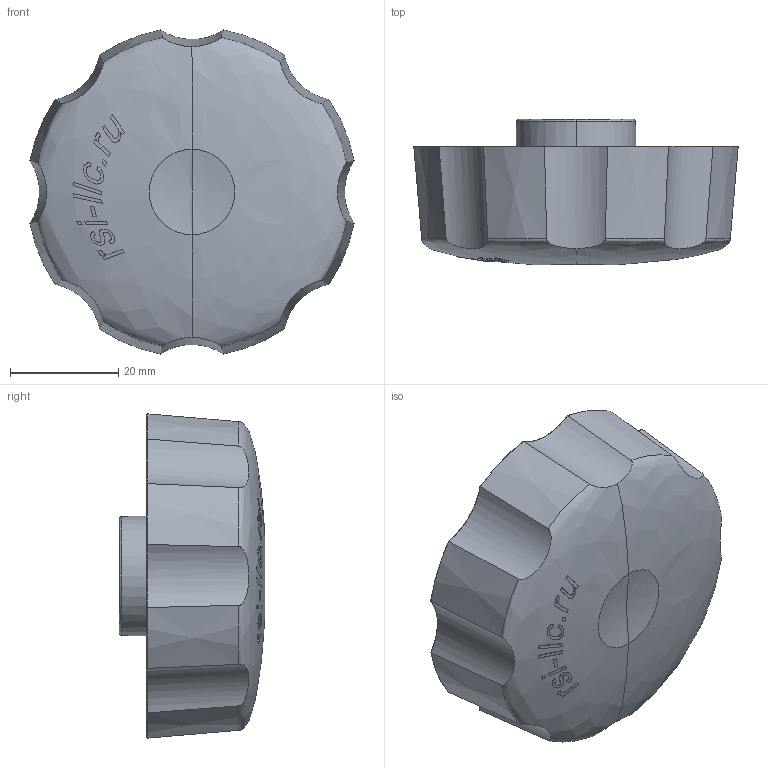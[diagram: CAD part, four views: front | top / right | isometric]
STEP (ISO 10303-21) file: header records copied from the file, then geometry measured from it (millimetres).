
FILE_DESCRIPTION (( 'STEP AP214' ), '1' );
FILE_NAME ('D60M12.STEP', '2021-01-21T10:21:50', ( 'Home' ), ( '' ), 'SwSTEP 2.0', 'SolidWorks 2020', '' );
FILE_SCHEMA (( 'AUTOMOTIVE_DESIGN' ));
Length unit declared in the file: millimetre
Products named in the file (1): D60M12
Bounding box: 59.86 x 26.81 x 59.86 mm (x, y, z)
Volume: 24554.7 mm3; surface area: 16418.2 mm2
Topology: 1 solids, 1 shells, 417 faces, 1040 edges, 605 vertices
Faces by surface type: bspline 130, cylinder 114, plane 87, torus 43, sphere 32, cone 11
Entity records: 20668 total; most frequent: CARTESIAN_POINT 10850, ORIENTED_EDGE 2012, DIRECTION 1393, EDGE_CURVE 1006, VERTEX_POINT 605, AXIS2_PLACEMENT_3D 565, EDGE_LOOP 431, ADVANCED_FACE 417
